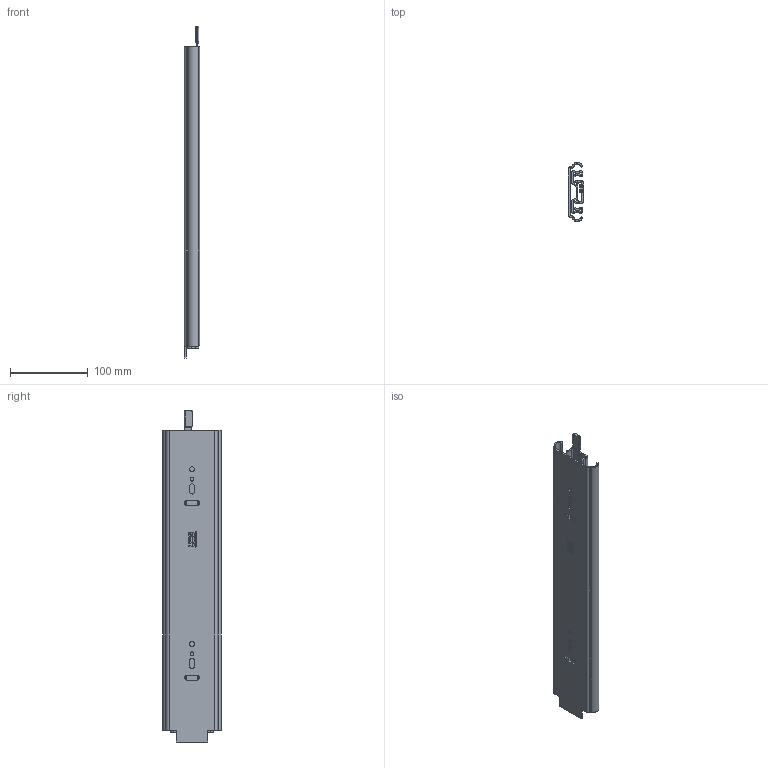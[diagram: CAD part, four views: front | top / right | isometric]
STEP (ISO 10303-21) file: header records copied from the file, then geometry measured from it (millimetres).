
FILE_DESCRIPTION (( 'STEP AP214' ), '1' );
FILE_NAME ('DSCHHD400MML-CLOSED.STEP', '2018-11-29T14:05:14', ( '' ), ( '' ), 'SwSTEP 2.0', 'SolidWorks 2017', '' );
FILE_SCHEMA (( 'AUTOMOTIVE_DESIGN' ));
Length unit declared in the file: millimetre
Products named in the file (5): DSCHHD400MML-CLOSED; DSCHHDL-4; DSCHHDL-1_400; DSCHHDL-2_400; DSCHHDL-3_400
Assembly tree (4 placements, depth 2):
  DSCHHD400MML-CLOSED
    DSCHHDL-3_400
    DSCHHDL-2_400
    DSCHHDL-1_400
    DSCHHDL-4
Bounding box: 19.4 x 75.28 x 426.1 mm (x, y, z)
Volume: 198658.2 mm3; surface area: 205238.1 mm2
Topology: 4 solids, 4 shells, 805 faces, 2177 edges, 1442 vertices
Faces by surface type: plane 460, bspline 237, cylinder 100, torus 4, sphere 4
Entity records: 27197 total; most frequent: CARTESIAN_POINT 7856, ORIENTED_EDGE 4346, DIRECTION 3055, EDGE_CURVE 2173, LINE 1493, VECTOR 1493, VERTEX_POINT 1442, EDGE_LOOP 907
